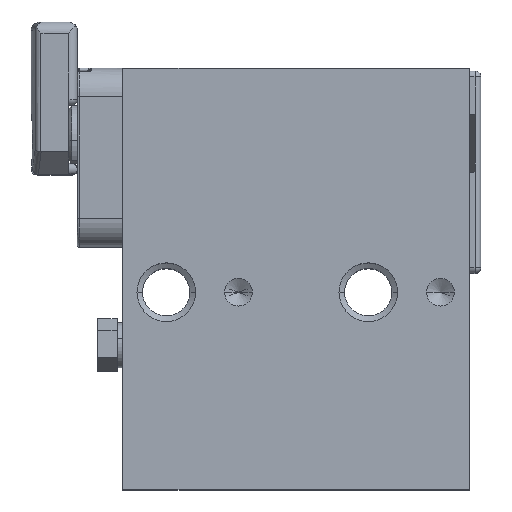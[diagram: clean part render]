
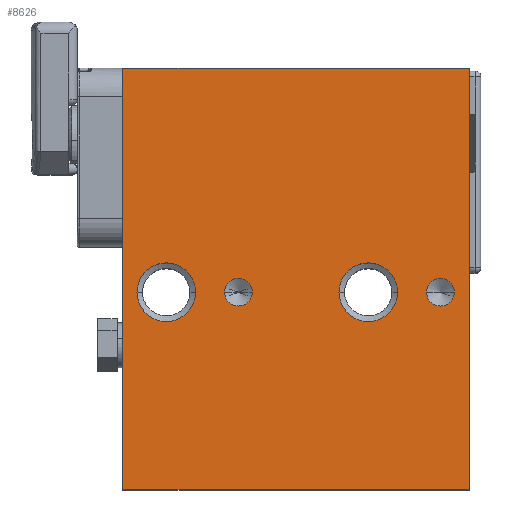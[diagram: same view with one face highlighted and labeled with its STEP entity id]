
A CAD part, top view. The second image highlights one B-rep face of the part: STEP entity #8626.
In plain terms, the highlighted planar face has unit normal (0, 0, 1).
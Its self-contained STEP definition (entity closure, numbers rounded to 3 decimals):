
#39 = VERTEX_POINT ( 'NONE', #14355 ) ;
#124 = DIRECTION ( 'NONE',  ( 0., 0., 1. ) ) ;
#438 = DIRECTION ( 'NONE',  ( -1., 0., 0. ) ) ;
#524 = EDGE_CURVE ( 'NONE', #3275, #9588, #765, .T. ) ;
#579 = CARTESIAN_POINT ( 'NONE',  ( 42.5, 34.2, 40. ) ) ;
#609 = DIRECTION ( 'NONE',  ( 0., -1., 0. ) ) ;
#752 = EDGE_CURVE ( 'NONE', #2894, #13744, #846, .T. ) ;
#765 = LINE ( 'NONE', #14077, #1492 ) ;
#846 = CIRCLE ( 'NONE', #8234, 2.4 ) ;
#849 = AXIS2_PLACEMENT_3D ( 'NONE', #12848, #6862, #15172 ) ;
#875 = ORIENTED_EDGE ( 'NONE', *, *, #3366, .F. ) ;
#901 = AXIS2_PLACEMENT_3D ( 'NONE', #14075, #12437, #10128 ) ;
#988 = AXIS2_PLACEMENT_3D ( 'NONE', #11846, #3568, #15689 ) ;
#1023 = DIRECTION ( 'NONE',  ( 0., 0., 1. ) ) ;
#1036 = VERTEX_POINT ( 'NONE', #2328 ) ;
#1119 = CIRCLE ( 'NONE', #849, 5.075 ) ;
#1302 = EDGE_LOOP ( 'NONE', ( #875, #7064 ) ) ;
#1492 = VECTOR ( 'NONE', #609, 1000. ) ;
#1494 = CARTESIAN_POINT ( 'NONE',  ( 47.575, 34.2, 40. ) ) ;
#1733 = DIRECTION ( 'NONE',  ( 0., -1., 0. ) ) ;
#1807 = FACE_BOUND ( 'NONE', #15035, .T. ) ;
#1938 = EDGE_CURVE ( 'NONE', #5300, #1036, #14778, .T. ) ;
#2073 = CARTESIAN_POINT ( 'NONE',  ( 20., 34.2, 40. ) ) ;
#2077 = EDGE_CURVE ( 'NONE', #4133, #15073, #5869, .T. ) ;
#2328 = CARTESIAN_POINT ( 'NONE',  ( 17.6, 34.2, 40. ) ) ;
#2429 = VECTOR ( 'NONE', #438, 1000. ) ;
#2605 = AXIS2_PLACEMENT_3D ( 'NONE', #12678, #12748, #7735 ) ;
#2894 = VERTEX_POINT ( 'NONE', #8156 ) ;
#2904 = ORIENTED_EDGE ( 'NONE', *, *, #1938, .F. ) ;
#2938 = CARTESIAN_POINT ( 'NONE',  ( 20., 34.2, 40. ) ) ;
#3275 = VERTEX_POINT ( 'NONE', #7169 ) ;
#3366 = EDGE_CURVE ( 'NONE', #13744, #2894, #15164, .T. ) ;
#3471 = LINE ( 'NONE', #10068, #8837 ) ;
#3568 = DIRECTION ( 'NONE',  ( 0., 0., 1. ) ) ;
#3656 = CIRCLE ( 'NONE', #12558, 5.075 ) ;
#3727 = LINE ( 'NONE', #14723, #14370 ) ;
#3934 = CARTESIAN_POINT ( 'NONE',  ( 60., 73., 40. ) ) ;
#4031 = CARTESIAN_POINT ( 'NONE',  ( 57.4, 34.2, 40. ) ) ;
#4116 = VERTEX_POINT ( 'NONE', #3934 ) ;
#4133 = VERTEX_POINT ( 'NONE', #6560 ) ;
#4302 = ORIENTED_EDGE ( 'NONE', *, *, #11156, .T. ) ;
#4646 = AXIS2_PLACEMENT_3D ( 'NONE', #12870, #6651, #1733 ) ;
#4758 = EDGE_CURVE ( 'NONE', #1036, #5300, #5013, .T. ) ;
#4830 = CARTESIAN_POINT ( 'NONE',  ( 55., 34.2, 40. ) ) ;
#4840 = DIRECTION ( 'NONE',  ( 0., 1., 0. ) ) ;
#5013 = CIRCLE ( 'NONE', #6281, 2.4 ) ;
#5230 = FACE_BOUND ( 'NONE', #14507, .T. ) ;
#5300 = VERTEX_POINT ( 'NONE', #9992 ) ;
#5680 = DIRECTION ( 'NONE',  ( 1., 0., 0. ) ) ;
#5869 = CIRCLE ( 'NONE', #988, 5.075 ) ;
#6281 = AXIS2_PLACEMENT_3D ( 'NONE', #2073, #1023, #15460 ) ;
#6560 = CARTESIAN_POINT ( 'NONE',  ( 2.425, 34.2, 40. ) ) ;
#6651 = DIRECTION ( 'NONE',  ( 0., 0., -1. ) ) ;
#6669 = EDGE_CURVE ( 'NONE', #15073, #4133, #9459, .T. ) ;
#6862 = DIRECTION ( 'NONE',  ( 0., 0., 1. ) ) ;
#7039 = EDGE_LOOP ( 'NONE', ( #14621, #4302, #13172, #8867 ) ) ;
#7064 = ORIENTED_EDGE ( 'NONE', *, *, #752, .F. ) ;
#7169 = CARTESIAN_POINT ( 'NONE',  ( 0., 73., 40. ) ) ;
#7367 = ORIENTED_EDGE ( 'NONE', *, *, #6669, .F. ) ;
#7441 = EDGE_CURVE ( 'NONE', #12686, #12477, #1119, .T. ) ;
#7544 = EDGE_CURVE ( 'NONE', #12477, #12686, #3656, .T. ) ;
#7639 = AXIS2_PLACEMENT_3D ( 'NONE', #2938, #10497, #8992 ) ;
#7735 = DIRECTION ( 'NONE',  ( 1., 0., 0. ) ) ;
#7764 = CARTESIAN_POINT ( 'NONE',  ( 0., 73., 40. ) ) ;
#8156 = CARTESIAN_POINT ( 'NONE',  ( 52.6, 34.2, 40. ) ) ;
#8234 = AXIS2_PLACEMENT_3D ( 'NONE', #4830, #124, #11415 ) ;
#8405 = CARTESIAN_POINT ( 'NONE',  ( 37.425, 34.2, 40. ) ) ;
#8626 = ADVANCED_FACE ( 'NONE', ( #11277, #13918, #5230, #12782, #1807 ), #9051, .F. ) ;
#8721 = CARTESIAN_POINT ( 'NONE',  ( 0., 0., 40. ) ) ;
#8837 = VECTOR ( 'NONE', #9521, 1000. ) ;
#8843 = ORIENTED_EDGE ( 'NONE', *, *, #7441, .F. ) ;
#8867 = ORIENTED_EDGE ( 'NONE', *, *, #9761, .T. ) ;
#8992 = DIRECTION ( 'NONE',  ( 1., 0., 0. ) ) ;
#9051 = PLANE ( 'NONE',  #4646 ) ;
#9187 = LINE ( 'NONE', #7764, #2429 ) ;
#9203 = ORIENTED_EDGE ( 'NONE', *, *, #4758, .F. ) ;
#9459 = CIRCLE ( 'NONE', #2605, 5.075 ) ;
#9521 = DIRECTION ( 'NONE',  ( 1., 0., 0. ) ) ;
#9588 = VERTEX_POINT ( 'NONE', #8721 ) ;
#9761 = EDGE_CURVE ( 'NONE', #4116, #3275, #9187, .T. ) ;
#9992 = CARTESIAN_POINT ( 'NONE',  ( 22.4, 34.2, 40. ) ) ;
#10068 = CARTESIAN_POINT ( 'NONE',  ( 0., 0., 40. ) ) ;
#10128 = DIRECTION ( 'NONE',  ( 1., 0., 0. ) ) ;
#10308 = EDGE_LOOP ( 'NONE', ( #7367, #13320 ) ) ;
#10497 = DIRECTION ( 'NONE',  ( 0., 0., 1. ) ) ;
#10785 = EDGE_CURVE ( 'NONE', #39, #4116, #3727, .T. ) ;
#11156 = EDGE_CURVE ( 'NONE', #9588, #39, #3471, .T. ) ;
#11277 = FACE_OUTER_BOUND ( 'NONE', #7039, .T. ) ;
#11415 = DIRECTION ( 'NONE',  ( 1., 0., 0. ) ) ;
#11846 = CARTESIAN_POINT ( 'NONE',  ( 7.5, 34.2, 40. ) ) ;
#12437 = DIRECTION ( 'NONE',  ( 0., 0., 1. ) ) ;
#12477 = VERTEX_POINT ( 'NONE', #1494 ) ;
#12558 = AXIS2_PLACEMENT_3D ( 'NONE', #579, #14049, #5680 ) ;
#12678 = CARTESIAN_POINT ( 'NONE',  ( 7.5, 34.2, 40. ) ) ;
#12686 = VERTEX_POINT ( 'NONE', #8405 ) ;
#12748 = DIRECTION ( 'NONE',  ( 0., 0., 1. ) ) ;
#12782 = FACE_BOUND ( 'NONE', #10308, .T. ) ;
#12848 = CARTESIAN_POINT ( 'NONE',  ( 42.5, 34.2, 40. ) ) ;
#12870 = CARTESIAN_POINT ( 'NONE',  ( 0., 73., 40. ) ) ;
#13172 = ORIENTED_EDGE ( 'NONE', *, *, #10785, .T. ) ;
#13320 = ORIENTED_EDGE ( 'NONE', *, *, #2077, .F. ) ;
#13744 = VERTEX_POINT ( 'NONE', #4031 ) ;
#13918 = FACE_BOUND ( 'NONE', #1302, .T. ) ;
#14049 = DIRECTION ( 'NONE',  ( 0., 0., 1. ) ) ;
#14075 = CARTESIAN_POINT ( 'NONE',  ( 55., 34.2, 40. ) ) ;
#14077 = CARTESIAN_POINT ( 'NONE',  ( 0., 0., 40. ) ) ;
#14355 = CARTESIAN_POINT ( 'NONE',  ( 60., 0., 40. ) ) ;
#14370 = VECTOR ( 'NONE', #4840, 1000. ) ;
#14507 = EDGE_LOOP ( 'NONE', ( #2904, #9203 ) ) ;
#14621 = ORIENTED_EDGE ( 'NONE', *, *, #524, .T. ) ;
#14723 = CARTESIAN_POINT ( 'NONE',  ( 60., 0., 40. ) ) ;
#14778 = CIRCLE ( 'NONE', #7639, 2.4 ) ;
#15035 = EDGE_LOOP ( 'NONE', ( #15215, #8843 ) ) ;
#15073 = VERTEX_POINT ( 'NONE', #15279 ) ;
#15164 = CIRCLE ( 'NONE', #901, 2.4 ) ;
#15172 = DIRECTION ( 'NONE',  ( 1., 0., 0. ) ) ;
#15215 = ORIENTED_EDGE ( 'NONE', *, *, #7544, .F. ) ;
#15279 = CARTESIAN_POINT ( 'NONE',  ( 12.575, 34.2, 40. ) ) ;
#15460 = DIRECTION ( 'NONE',  ( 1., 0., 0. ) ) ;
#15689 = DIRECTION ( 'NONE',  ( 1., 0., 0. ) ) ;
